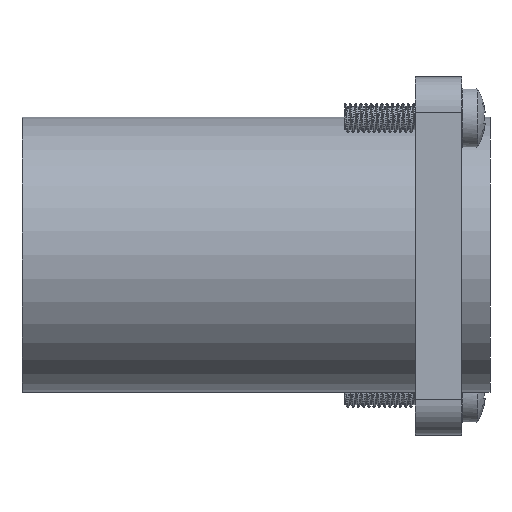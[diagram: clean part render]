
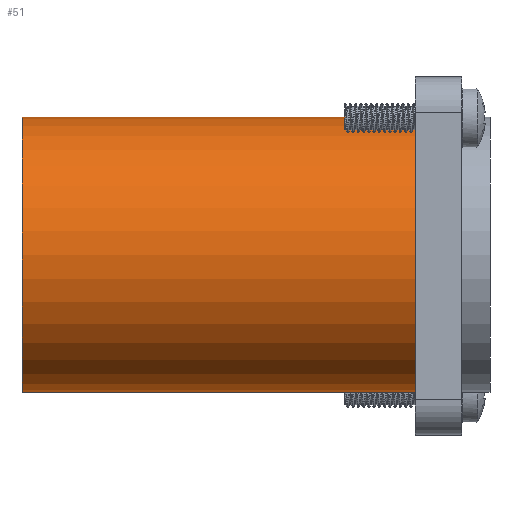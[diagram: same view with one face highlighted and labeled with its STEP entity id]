
A CAD part, left-side view. The second image highlights one B-rep face of the part: STEP entity #51.
In plain terms, the highlighted cylindrical face has radius 11.75 mm (diameter 23.5 mm), a full revolution.
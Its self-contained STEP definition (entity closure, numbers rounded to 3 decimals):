
#51 = ADVANCED_FACE('',(#52),#79,.T.);
#52 = FACE_BOUND('',#53,.F.);
#53 = EDGE_LOOP('',(#54,#63,#71,#78));
#54 = ORIENTED_EDGE('',*,*,#55,.F.);
#55 = EDGE_CURVE('',#56,#56,#58,.T.);
#56 = VERTEX_POINT('',#57);
#57 = CARTESIAN_POINT('',(11.75,13.6,0.));
#58 = CIRCLE('',#59,11.75);
#59 = AXIS2_PLACEMENT_3D('',#60,#61,#62);
#60 = CARTESIAN_POINT('',(0.,13.6,0.));
#61 = DIRECTION('',(0.,-1.,0.));
#62 = DIRECTION('',(1.,0.,0.));
#63 = ORIENTED_EDGE('',*,*,#64,.T.);
#64 = EDGE_CURVE('',#56,#65,#67,.T.);
#65 = VERTEX_POINT('',#66);
#66 = CARTESIAN_POINT('',(11.75,-20.,0.));
#67 = LINE('',#68,#69);
#68 = CARTESIAN_POINT('',(11.75,13.6,0.));
#69 = VECTOR('',#70,1.);
#70 = DIRECTION('',(0.,-1.,0.));
#71 = ORIENTED_EDGE('',*,*,#72,.F.);
#72 = EDGE_CURVE('',#65,#65,#73,.T.);
#73 = CIRCLE('',#74,11.75);
#74 = AXIS2_PLACEMENT_3D('',#75,#76,#77);
#75 = CARTESIAN_POINT('',(0.,-20.,0.));
#76 = DIRECTION('',(0.,1.,0.));
#77 = DIRECTION('',(1.,0.,0.));
#78 = ORIENTED_EDGE('',*,*,#64,.F.);
#79 = CYLINDRICAL_SURFACE('',#80,11.75);
#80 = AXIS2_PLACEMENT_3D('',#81,#82,#83);
#81 = CARTESIAN_POINT('',(0.,13.6,0.));
#82 = DIRECTION('',(-0.,1.,-0.));
#83 = DIRECTION('',(1.,0.,0.));
